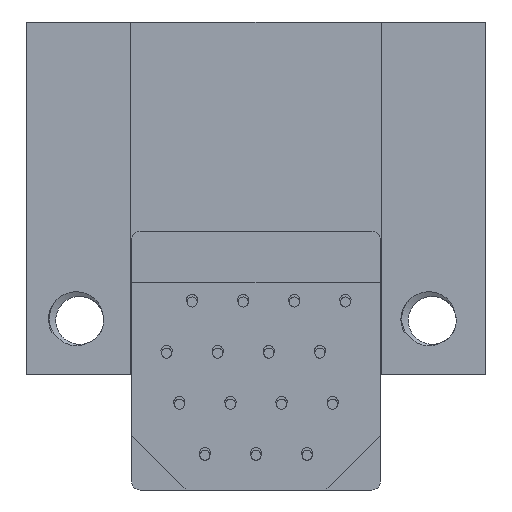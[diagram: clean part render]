
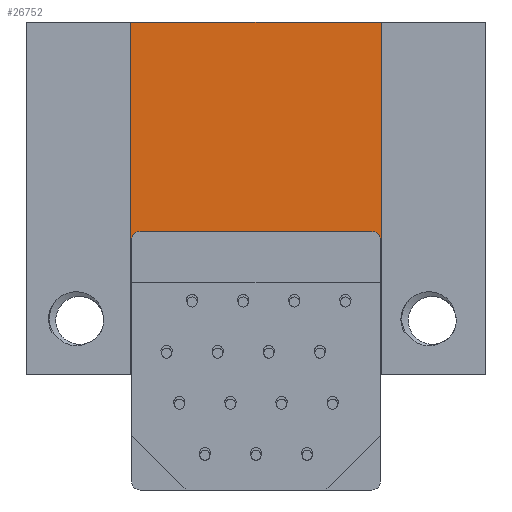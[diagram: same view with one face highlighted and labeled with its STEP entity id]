
A CAD part, front view. The second image highlights one B-rep face of the part: STEP entity #26752.
In plain terms, the highlighted planar face has unit normal (0, -1, 0).
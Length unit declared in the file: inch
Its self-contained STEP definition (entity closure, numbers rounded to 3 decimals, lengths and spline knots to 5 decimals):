
#816 = VERTEX_POINT ( 'NONE', #19994 ) ;
#834 = DIRECTION ( 'NONE',  ( 0., 0., 1. ) ) ;
#844 = VERTEX_POINT ( 'NONE', #11108 ) ;
#918 = LINE ( 'NONE', #11078, #17989 ) ;
#924 = AXIS2_PLACEMENT_3D ( 'NONE', #2849, #18471, #5083 ) ;
#961 = ORIENTED_EDGE ( 'NONE', *, *, #14080, .F. ) ;
#1198 = EDGE_CURVE ( 'NONE', #19006, #844, #3864, .T. ) ;
#1506 = CARTESIAN_POINT ( 'NONE',  ( -0.1225, -0.0575, -0.225 ) ) ;
#1594 = DIRECTION ( 'NONE',  ( 0., 0., 1. ) ) ;
#1834 = ORIENTED_EDGE ( 'NONE', *, *, #19796, .F. ) ;
#1935 = EDGE_CURVE ( 'NONE', #4955, #11738, #11884, .T. ) ;
#2586 = VECTOR ( 'NONE', #13610, 39.37008 ) ;
#2801 = CARTESIAN_POINT ( 'NONE',  ( 0.1135, -0.0575, -0.213 ) ) ;
#2849 = CARTESIAN_POINT ( 'NONE',  ( -0.1135, -0.0575, -0.213 ) ) ;
#3059 = VECTOR ( 'NONE', #9037, 39.37008 ) ;
#3384 = DIRECTION ( 'NONE',  ( -1., 0., 0. ) ) ;
#3864 = LINE ( 'NONE', #19425, #28326 ) ;
#4266 = VECTOR ( 'NONE', #15253, 39.37008 ) ;
#4572 = CARTESIAN_POINT ( 'NONE',  ( 0.24402, -0.0575, -0.225 ) ) ;
#4801 = AXIS2_PLACEMENT_3D ( 'NONE', #2801, #18419, #5035 ) ;
#4955 = VERTEX_POINT ( 'NONE', #5794 ) ;
#5035 = DIRECTION ( 'NONE',  ( 0., 0., 1. ) ) ;
#5083 = DIRECTION ( 'NONE',  ( 0., 0., 1. ) ) ;
#5794 = CARTESIAN_POINT ( 'NONE',  ( -0.1225, -0.0575, 0. ) ) ;
#6166 = ORIENTED_EDGE ( 'NONE', *, *, #26389, .F. ) ;
#6766 = CARTESIAN_POINT ( 'NONE',  ( -0.225, -0.0575, 0. ) ) ;
#7466 = EDGE_CURVE ( 'NONE', #4955, #26913, #22078, .T. ) ;
#8489 = LINE ( 'NONE', #11451, #2586 ) ;
#8626 = CARTESIAN_POINT ( 'NONE',  ( 0.1215, -0.0575, -0.225 ) ) ;
#8935 = LINE ( 'NONE', #4572, #3059 ) ;
#9037 = DIRECTION ( 'NONE',  ( -1., 0., 0. ) ) ;
#9947 = ORIENTED_EDGE ( 'NONE', *, *, #1935, .F. ) ;
#10713 = CARTESIAN_POINT ( 'NONE',  ( -0.1215, -0.0575, -0.225 ) ) ;
#11078 = CARTESIAN_POINT ( 'NONE',  ( 0.1135, -0.0575, -0.205 ) ) ;
#11108 = CARTESIAN_POINT ( 'NONE',  ( 0.1215, -0.0575, -0.213 ) ) ;
#11316 = FACE_OUTER_BOUND ( 'NONE', #20145, .T. ) ;
#11451 = CARTESIAN_POINT ( 'NONE',  ( -0.1215, -0.0575, -0.255 ) ) ;
#11738 = VERTEX_POINT ( 'NONE', #12642 ) ;
#11884 = LINE ( 'NONE', #6766, #17143 ) ;
#11934 = CARTESIAN_POINT ( 'NONE',  ( 0.24402, -0.0575, -0.225 ) ) ;
#12642 = CARTESIAN_POINT ( 'NONE',  ( 0.1225, -0.0575, 0. ) ) ;
#13070 = ORIENTED_EDGE ( 'NONE', *, *, #7466, .T. ) ;
#13356 = DIRECTION ( 'NONE',  ( -1., 0., 0. ) ) ;
#13520 = DIRECTION ( 'NONE',  ( 1., 0., 0. ) ) ;
#13610 = DIRECTION ( 'NONE',  ( 0., 0., -1. ) ) ;
#14080 = EDGE_CURVE ( 'NONE', #816, #15407, #918, .T. ) ;
#14195 = PLANE ( 'NONE',  #16902 ) ;
#14302 = EDGE_CURVE ( 'NONE', #844, #816, #20420, .T. ) ;
#14309 = CARTESIAN_POINT ( 'NONE',  ( -0.1215, -0.0575, -0.213 ) ) ;
#14507 = CARTESIAN_POINT ( 'NONE',  ( 0.24402, -0.0575, -0.225 ) ) ;
#14823 = VERTEX_POINT ( 'NONE', #19926 ) ;
#15253 = DIRECTION ( 'NONE',  ( 0., 0., -1. ) ) ;
#15407 = VERTEX_POINT ( 'NONE', #21769 ) ;
#16902 = AXIS2_PLACEMENT_3D ( 'NONE', #11934, #18573, #834 ) ;
#17143 = VECTOR ( 'NONE', #13520, 39.37008 ) ;
#17236 = LINE ( 'NONE', #21536, #28403 ) ;
#17548 = ORIENTED_EDGE ( 'NONE', *, *, #14302, .F. ) ;
#17989 = VECTOR ( 'NONE', #13356, 39.37008 ) ;
#17996 = EDGE_CURVE ( 'NONE', #15407, #28577, #25891, .T. ) ;
#18419 = DIRECTION ( 'NONE',  ( 0., -1., 0. ) ) ;
#18471 = DIRECTION ( 'NONE',  ( 0., -1., 0. ) ) ;
#18573 = DIRECTION ( 'NONE',  ( 0., 1., 0. ) ) ;
#19006 = VERTEX_POINT ( 'NONE', #8626 ) ;
#19425 = CARTESIAN_POINT ( 'NONE',  ( 0.1215, -0.0575, -0.213 ) ) ;
#19796 = EDGE_CURVE ( 'NONE', #28577, #26986, #8489, .T. ) ;
#19926 = CARTESIAN_POINT ( 'NONE',  ( 0.1225, -0.0575, -0.225 ) ) ;
#19994 = CARTESIAN_POINT ( 'NONE',  ( 0.1135, -0.0575, -0.205 ) ) ;
#20145 = EDGE_LOOP ( 'NONE', ( #21752, #1834, #27555, #961, #17548, #23131, #6166, #24990, #9947, #13070 ) ) ;
#20420 = CIRCLE ( 'NONE', #4801, 0.008 ) ;
#21536 = CARTESIAN_POINT ( 'NONE',  ( 0.1225, -0.0575, -0.225 ) ) ;
#21752 = ORIENTED_EDGE ( 'NONE', *, *, #25046, .F. ) ;
#21769 = CARTESIAN_POINT ( 'NONE',  ( -0.1135, -0.0575, -0.205 ) ) ;
#21835 = VECTOR ( 'NONE', #3384, 39.37008 ) ;
#22078 = LINE ( 'NONE', #26345, #4266 ) ;
#22542 = LINE ( 'NONE', #14507, #21835 ) ;
#23131 = ORIENTED_EDGE ( 'NONE', *, *, #1198, .F. ) ;
#23776 = DIRECTION ( 'NONE',  ( 0., 0., 1. ) ) ;
#24990 = ORIENTED_EDGE ( 'NONE', *, *, #28194, .T. ) ;
#25046 = EDGE_CURVE ( 'NONE', #26986, #26913, #8935, .T. ) ;
#25891 = CIRCLE ( 'NONE', #924, 0.008 ) ;
#26345 = CARTESIAN_POINT ( 'NONE',  ( -0.1225, -0.0575, -0.345 ) ) ;
#26389 = EDGE_CURVE ( 'NONE', #14823, #19006, #22542, .T. ) ;
#26752 = ADVANCED_FACE ( 'NONE', ( #11316 ), #14195, .F. ) ;
#26913 = VERTEX_POINT ( 'NONE', #1506 ) ;
#26986 = VERTEX_POINT ( 'NONE', #10713 ) ;
#27555 = ORIENTED_EDGE ( 'NONE', *, *, #17996, .F. ) ;
#28194 = EDGE_CURVE ( 'NONE', #14823, #11738, #17236, .T. ) ;
#28326 = VECTOR ( 'NONE', #1594, 39.37008 ) ;
#28403 = VECTOR ( 'NONE', #23776, 39.37008 ) ;
#28577 = VERTEX_POINT ( 'NONE', #14309 ) ;
